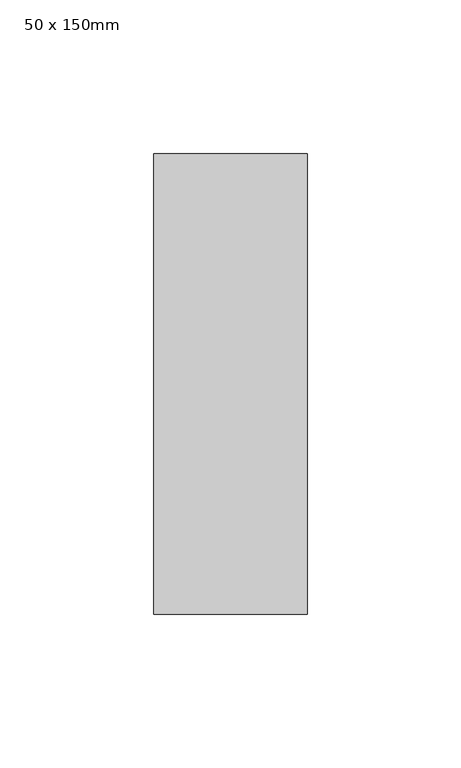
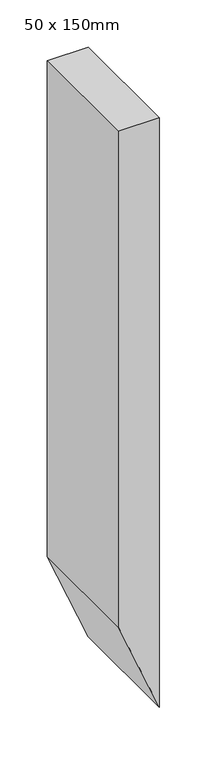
"""IFC4 building model written with IfcOpenShell, lengths in millimetres: member geometry, Prostokątny szpros : 50 x 150mm."""

from ifc_helpers import new_model, si_unit, frame, origin, place, context, project, spatial, polyline, outline, extrude, source, transform, mapped, element, save


def member_50_x_150mm_48ea1c4b(model_context):
    return source(origin(), model_context, "Body", "SweptSolid", [
        extrude(outline(polyline([(0.0, 0.0), (0.0, -50.0), (-639.4291118, -50.0), (-760.1397899, 0.0), (0.0, 0.0)])), frame((0.0, -75.0, 0.0), z_axis=(0.0, 1.0, 0.0), x_axis=(0.0, 0.0, 1.0)), (0.0, 0.0, 1.0), 150.0),
    ])


if __name__ == "__main__":
    model = new_model("IFC4")
    model_context = context("Model", 3, world=origin())
    ifc_project = project(units=[si_unit("LENGTHUNIT", "METRE", prefix="MILLI")], contexts=[model_context])
    site = spatial("IfcSite", under=ifc_project)
    building = spatial("IfcBuilding", under=site)
    placement = place(None, origin())
    member_50_x_150mm_shape = member_50_x_150mm_48ea1c4b(model_context)
    element("IfcMember", 1, ObjectType="Prostokątny szpros : 50 x 150mm", at=placement, inside=building, context=model_context, shape_type="MappedRepresentation", body=[
        mapped(member_50_x_150mm_shape, transform((0.0, 0.0, 0.0), x_axis=(1.0, 0.0, 0.0), y_axis=(0.0, 1.0, 0.0), z_axis=(0.0, 0.0, 1.0))),
    ])
    save(model, "model.ifc")
